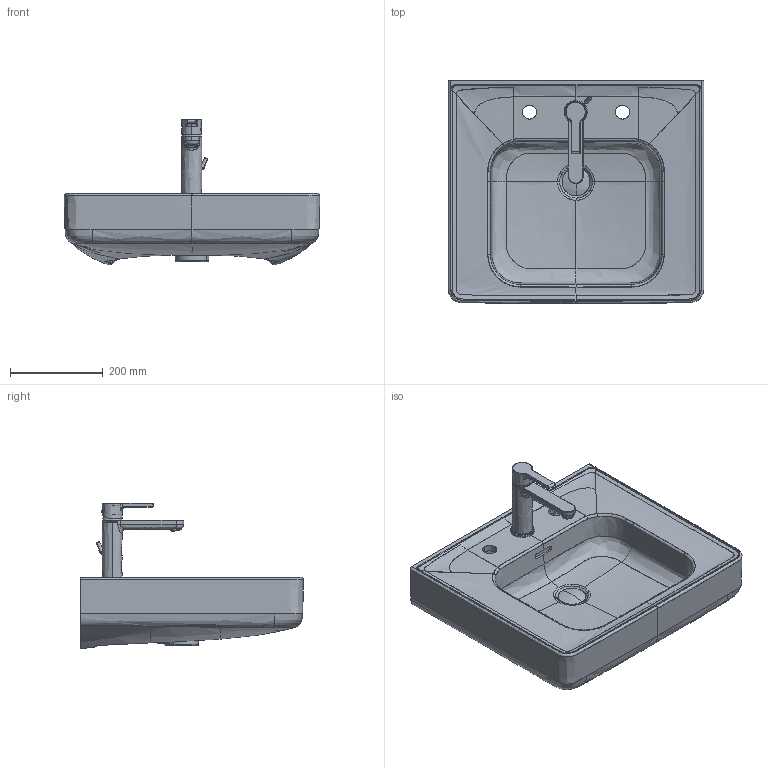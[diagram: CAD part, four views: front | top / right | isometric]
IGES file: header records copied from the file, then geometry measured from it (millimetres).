
Global section: file name: D:\01_Planungsdaten\Keramik\Soleil_by_Starck\237655\3D\237655.igs; native system: Rhinoceros ( Sep 13 2016 ); preprocessor: Trout Lake IGES 012 Sep 13 2016; date: 220719.084707; units: millimetre
Bounding box: 549.86 x 479.93 x 312.86 mm (x, y, z)
Surface area: 1018843.3 mm2 (no closed solid volume)
Topology: 0 solids, 0 shells, 732 faces, 7469 edges, 7457 vertices
Faces by surface type: bspline 732
